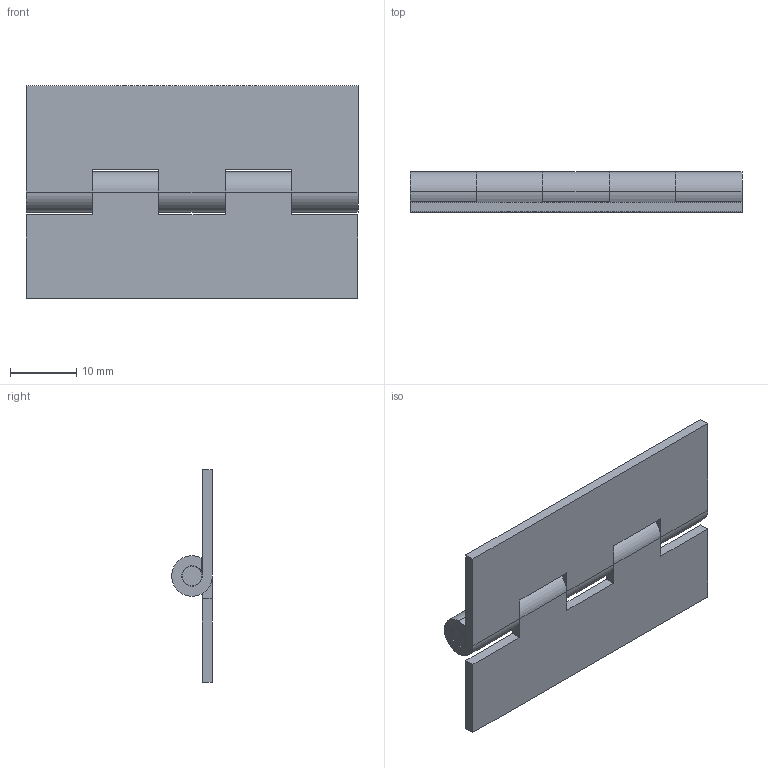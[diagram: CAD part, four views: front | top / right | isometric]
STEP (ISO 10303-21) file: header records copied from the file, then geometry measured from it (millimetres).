
FILE_DESCRIPTION (( 'STEP AP203' ), '1' );
FILE_NAME ('B17-17782.STEP', '2024-10-24T09:36:23', ( '' ), ( '' ), 'SwSTEP 2.0', 'SolidWorks 2021', '' );
FILE_SCHEMA (( 'CONFIG_CONTROL_DESIGN' ));
Length unit declared in the file: millimetre
Products named in the file (4): B17-3-50; B17-207802-1; B17-207802-2; B17-17782
Assembly tree (3 placements, depth 2):
  B17-17782
    B17-3-50
    B17-207802-1
    B17-207802-2
Bounding box: 50 x 6.1 x 32 mm (x, y, z)
Volume: 3425.3 mm3; surface area: 5239.5 mm2
Topology: 3 solids, 3 shells, 62 faces, 168 edges, 112 vertices
Faces by surface type: cylinder 32, plane 30
Entity records: 2390 total; most frequent: DIRECTION 368, CARTESIAN_POINT 348, ORIENTED_EDGE 336, EDGE_CURVE 168, AXIS2_PLACEMENT_3D 132, VERTEX_POINT 112, VECTOR 104, LINE 104
